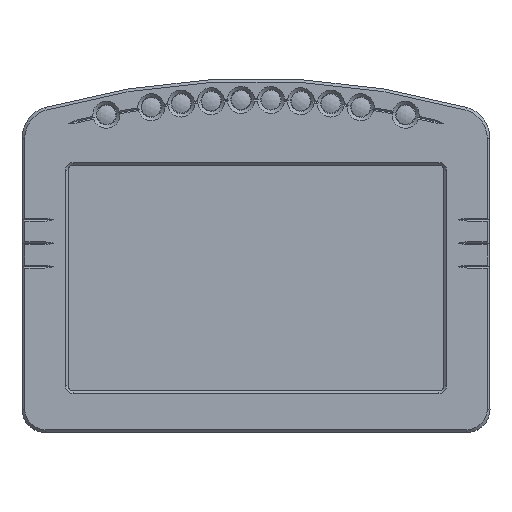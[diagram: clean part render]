
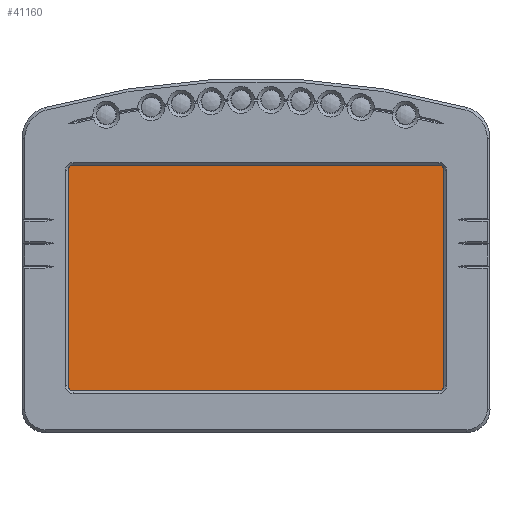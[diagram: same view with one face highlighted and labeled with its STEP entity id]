
A CAD part, top view. The second image highlights one B-rep face of the part: STEP entity #41160.
In plain terms, the highlighted planar face has unit normal (0, 0, 1).
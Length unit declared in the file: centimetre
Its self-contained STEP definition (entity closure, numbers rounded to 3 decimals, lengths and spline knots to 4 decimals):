
#2720=CIRCLE('',#43021,0.15);
#2721=CIRCLE('',#43024,0.15);
#2722=CIRCLE('',#43026,0.15);
#2723=CIRCLE('',#43029,0.15);
#6134=VERTEX_POINT('',#60658);
#6135=VERTEX_POINT('',#60660);
#6136=VERTEX_POINT('',#60664);
#6137=VERTEX_POINT('',#60668);
#6138=VERTEX_POINT('',#60672);
#6139=VERTEX_POINT('',#60676);
#6140=VERTEX_POINT('',#60678);
#6141=VERTEX_POINT('',#60682);
#11332=VECTOR('',#48100,1.);
#11336=VECTOR('',#48109,1.);
#11341=VECTOR('',#48123,1.);
#11342=VECTOR('',#48129,1.);
#14022=LINE('',#60659,#11332);
#14026=LINE('',#60669,#11336);
#14031=LINE('',#60683,#11341);
#14032=LINE('',#60687,#11342);
#16918=EDGE_CURVE('',#6135,#6134,#14022,.T.);
#16921=EDGE_CURVE('',#6134,#6136,#2720,.T.);
#16923=EDGE_CURVE('',#6136,#6137,#14026,.T.);
#16925=EDGE_CURVE('',#6137,#6138,#2721,.T.);
#16927=EDGE_CURVE('',#6140,#6139,#2722,.T.);
#16930=EDGE_CURVE('',#6139,#6141,#14031,.T.);
#16931=EDGE_CURVE('',#6141,#6135,#2723,.T.);
#16932=EDGE_CURVE('',#6138,#6140,#14032,.T.);
#23992=ORIENTED_EDGE('',*,*,#16927,.T.);
#23993=ORIENTED_EDGE('',*,*,#16930,.T.);
#23994=ORIENTED_EDGE('',*,*,#16931,.T.);
#23995=ORIENTED_EDGE('',*,*,#16918,.T.);
#23996=ORIENTED_EDGE('',*,*,#16921,.T.);
#23997=ORIENTED_EDGE('',*,*,#16923,.T.);
#23998=ORIENTED_EDGE('',*,*,#16925,.T.);
#23999=ORIENTED_EDGE('',*,*,#16932,.T.);
#37072=EDGE_LOOP('',(#23992,#23993,#23994,#23995,#23996,#23997,#23998,#23999));
#39123=FACE_BOUND('',#37072,.T.);
#41160=ADVANCED_FACE('',(#39123),#109801,.T.);
#43021=AXIS2_PLACEMENT_3D('',#60665,#48105,#48106);
#43024=AXIS2_PLACEMENT_3D('',#60673,#48113,#48114);
#43026=AXIS2_PLACEMENT_3D('',#60677,#48118,#48119);
#43029=AXIS2_PLACEMENT_3D('',#60685,#48126,#48127);
#43031=AXIS2_PLACEMENT_3D('',#60688,#48130,$);
#48100=DIRECTION('',(0.,1.,0.));
#48105=DIRECTION('',(0.,0.,1.));
#48106=DIRECTION('',(0.15,0.,0.));
#48109=DIRECTION('',(-1.,0.,0.));
#48113=DIRECTION('',(0.,0.,1.));
#48114=DIRECTION('',(0.15,0.,0.));
#48118=DIRECTION('',(0.,0.,1.));
#48119=DIRECTION('',(0.15,0.,0.));
#48123=DIRECTION('',(1.,0.,0.));
#48126=DIRECTION('',(0.,0.,1.));
#48127=DIRECTION('',(0.15,0.,0.));
#48129=DIRECTION('',(0.,-1.,0.));
#48130=DIRECTION('',(0.,0.,1.));
#60658=CARTESIAN_POINT('',(12.125,7.53,1.78));
#60659=CARTESIAN_POINT('',(12.125,7.53,1.78));
#60660=CARTESIAN_POINT('',(12.125,1.35,1.78));
#60664=CARTESIAN_POINT('',(11.975,7.68,1.78));
#60665=CARTESIAN_POINT('',(11.975,7.53,1.78));
#60668=CARTESIAN_POINT('',(1.475,7.68,1.78));
#60669=CARTESIAN_POINT('',(1.475,7.68,1.78));
#60672=CARTESIAN_POINT('',(1.325,7.53,1.78));
#60673=CARTESIAN_POINT('',(1.475,7.53,1.78));
#60676=CARTESIAN_POINT('',(1.475,1.2,1.78));
#60677=CARTESIAN_POINT('',(1.475,1.35,1.78));
#60678=CARTESIAN_POINT('',(1.325,1.35,1.78));
#60682=CARTESIAN_POINT('',(11.975,1.2,1.78));
#60683=CARTESIAN_POINT('',(11.975,1.2,1.78));
#60685=CARTESIAN_POINT('',(11.975,1.35,1.78));
#60687=CARTESIAN_POINT('',(1.325,1.35,1.78));
#60688=CARTESIAN_POINT('',(6.725,4.44,1.78));
#109801=PLANE('',#43031);
